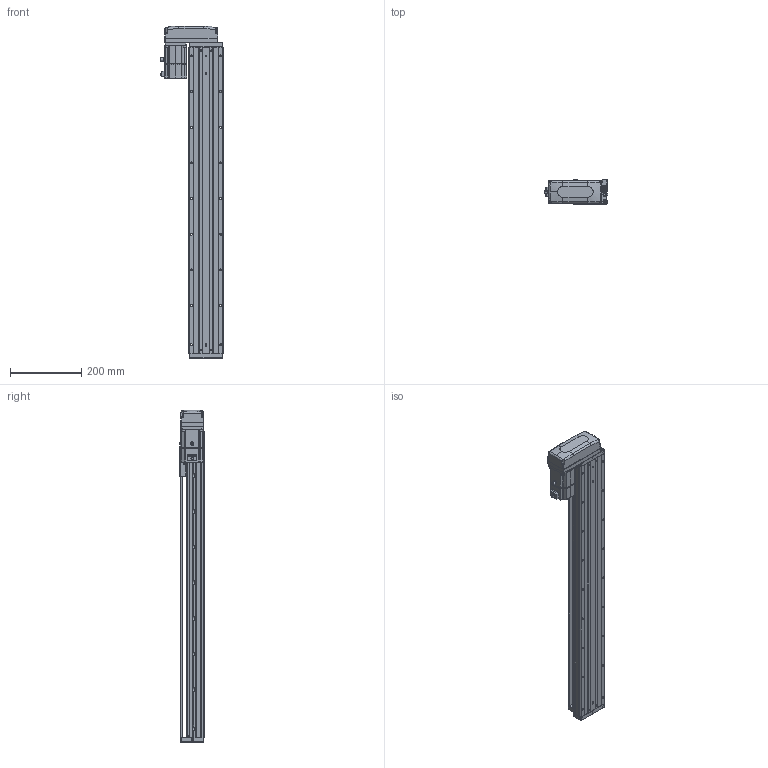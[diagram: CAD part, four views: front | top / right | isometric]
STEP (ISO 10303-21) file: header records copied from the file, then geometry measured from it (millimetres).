
FILE_DESCRIPTION (( 'STEP AP203' ), '1' );
FILE_NAME ('KTHA100-700-BR-M20-C4L.step', '2022-04-26T02:00:49', ( '微软用户' ), ( '微软中国' ), 'SwSTEP 2.0', 'SolidWorks 2020', '' );
FILE_SCHEMA (( 'CONFIG_CONTROL_DESIGN' ));
Length unit declared in the file: millimetre
Products named in the file (17): KTHA100-700-BR-M20-C4L; KTHA100-005; GBT70.1 M5℅16; GB¨uT 70.2-M3¡Á5_M3¡Á6; CTHA60-016; EE_SX911P_R; GBT 70.3-M3℅6; CTHA60-017; _X2_4E0983F1_X0_200W_1; KTHA100-001_860; CTHA60-021; CTHA86-015-1_CTHA86-015-2; KTHA100-002; GBT77-2000 M3×3; CTHA86-033; KTHA100-004; GBT 70.1-M3℅6
Assembly tree (57 placements, depth 2):
  KTHA100-700-BR-M20-C4L
    KTHA100-001_860
    KTHA100-002
    KTHA100-004
    KTHA100-005
    GB¨uT 70.2-M3¡Á5_M3¡Á6  x6
    EE_SX911P_R  x3
    CTHA60-017  x3
    CTHA60-021  x2
    GBT77-2000 M3×3  x6
    GBT 70.1-M3℅6  x10
    GBT70.1 M5℅16  x14
    CTHA60-016  x2
    GBT 70.3-M3℅6  x4
    _X2_4E0983F1_X0_200W_1
    CTHA86-015-1_CTHA86-015-2
    CTHA86-033
Bounding box: 178.52 x 68 x 931 mm (x, y, z)
Volume: 4050104.8 mm3; surface area: 659339.5 mm2
Topology: 60 solids, 60 shells, 2457 faces, 5889 edges, 3652 vertices
Faces by surface type: plane 1256, cylinder 683, cone 311, torus 116, bspline 75, sphere 16
Entity records: 42594 total; most frequent: CARTESIAN_POINT 8560, DIRECTION 6602, ORIENTED_EDGE 6390, EDGE_CURVE 3195, AXIS2_PLACEMENT_3D 2302, VERTEX_POINT 2012, LINE 1998, VECTOR 1998
